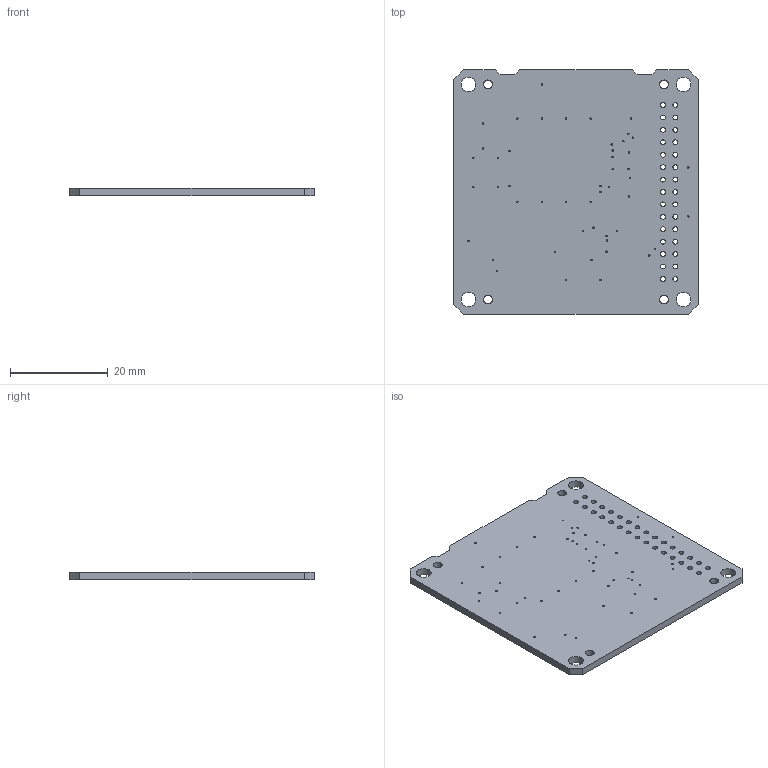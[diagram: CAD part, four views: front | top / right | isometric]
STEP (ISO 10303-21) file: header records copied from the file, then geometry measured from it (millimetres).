
FILE_DESCRIPTION(('KiCad electronic assembly'),'2;1');
FILE_NAME('carrier-board-only.step','2026-10-24T20:09:30',('Pcbnew'),( 'Kicad'),'Open CASCADE STEP processor 7.9','KiCad to STEP converter' ,'Unknown');
FILE_SCHEMA(('AUTOMOTIVE_DESIGN { 1 0 10303 214 1 1 1 1 }'));
Length unit declared in the file: millimetre
Products named in the file (2): carrier-board-only 1; hd-platinum-carrier-rev-a_PCB
Assembly tree (1 placements, depth 2):
  carrier-board-only 1
    hd-platinum-carrier-rev-a_PCB
Bounding box: 50 x 50 x 1.52 mm (x, y, z)
Volume: 3667 mm3; surface area: 5440.1 mm2
Topology: 1 solids, 1 shells, 105 faces, 309 edges, 206 vertices
Faces by surface type: cylinder 87, plane 18
Full cylindrical faces by diameter (mm): 0.3 x49, 1 x30, 1.8 x4, 3 x4
Entity records: 3982 total; most frequent: DIRECTION 697, CARTESIAN_POINT 622, ORIENTED_EDGE 618, EDGE_CURVE 309, AXIS2_PLACEMENT_3D 281, FACE_BOUND 279, EDGE_LOOP 279, VERTEX_POINT 206
